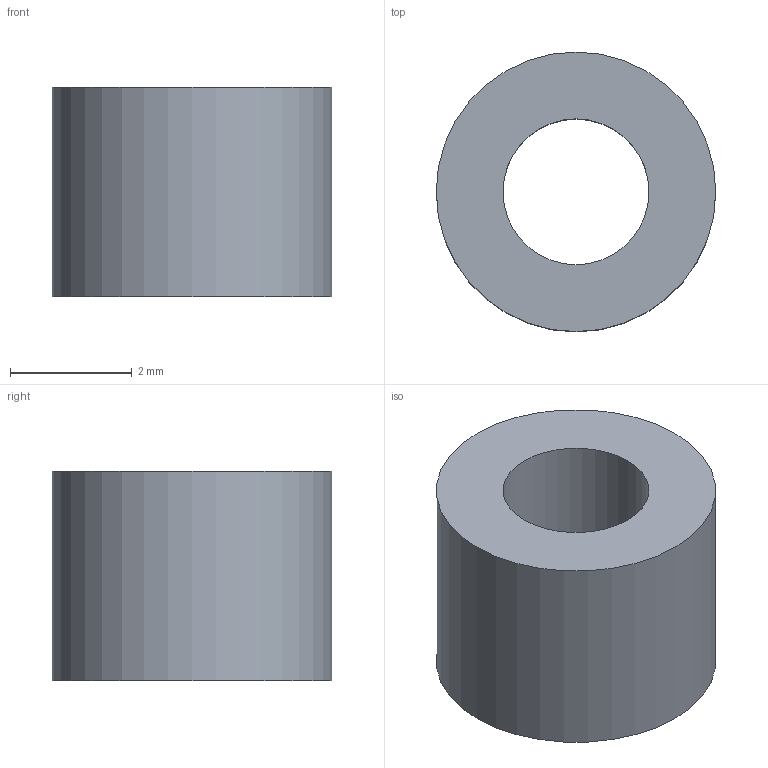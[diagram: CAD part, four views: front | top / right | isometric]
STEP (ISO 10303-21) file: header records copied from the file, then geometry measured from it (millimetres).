
FILE_DESCRIPTION(('Open CASCADE Model'),'2;1');
FILE_NAME('Open CASCADE Shape Model','2026-11-15T18:53:36',('Author'),( 'Open CASCADE'),'Open CASCADE STEP processor 7.9','Open CASCADE 7.9' ,'Unknown');
FILE_SCHEMA(('AUTOMOTIVE_DESIGN { 1 0 10303 214 1 1 1 1 }'));
Length unit declared in the file: millimetre
Products named in the file (1): Open CASCADE STEP translator 7.9 3
Bounding box: 4.6 x 4.6 x 3.45 mm (x, y, z)
Volume: 41.7 mm3; surface area: 100.1 mm2
Topology: 1 solids, 1 shells, 4 faces, 6 edges, 4 vertices
Faces by surface type: cylinder 2, plane 2
Full cylindrical faces by diameter (mm): 2.4 x1, 4.6 x1
Entity records: 192 total; most frequent: CARTESIAN_POINT 39, DIRECTION 30, ORIENTED_EDGE 12, PCURVE 12, DEFINITIONAL_REPRESENTATION 12, LINE 10, VECTOR 10, AXIS2_PLACEMENT_3D 9
